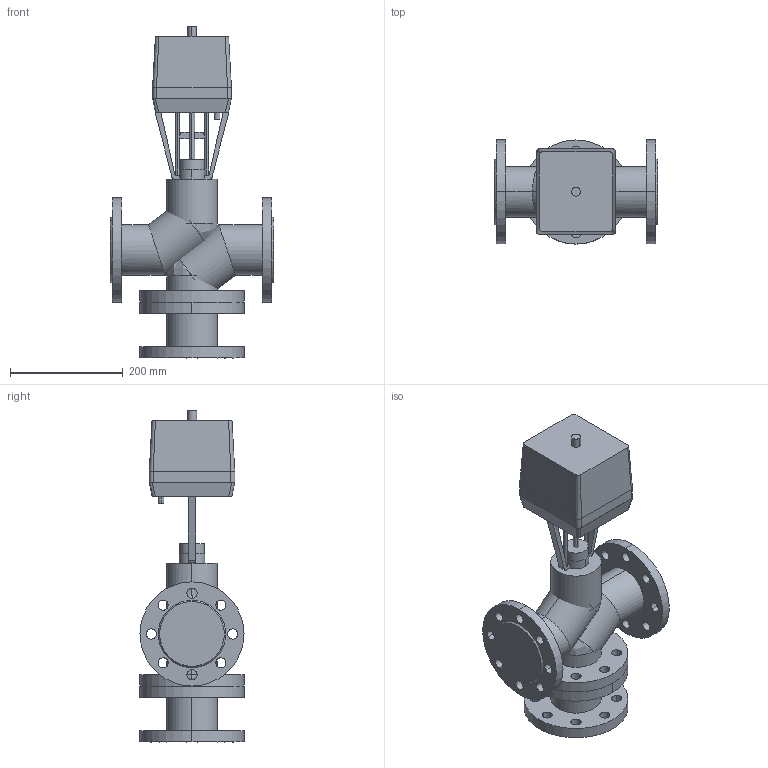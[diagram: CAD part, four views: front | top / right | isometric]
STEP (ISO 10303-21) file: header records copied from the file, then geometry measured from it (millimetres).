
FILE_DESCRIPTION(/* description */ (''),/* implementation_level */ '2;1');
FILE_NAME(/* name */ 'ТРК DN65 PN 2.5 МПа VTM-i 2000H',/* time_stamp */ '2026-07-14T23:24:12+03:00',/* author */ (''),/* organization */ (''),/* preprocessor_version */ 'ST-DEVELOPER v20',/* originating_system */ '',/* authorisation */ '');
FILE_SCHEMA (('AP242_MANAGED_MODEL_BASED_3D_ENGINEERING_MIM_LF { 1 0 10303 442 1 1 4 }'));
Length unit declared in the file: millimetre
Products named in the file (17): TopLevelAssembly; Выдавливание; Модификатор; Модификатор_1; Выдавливание_
1; Выдавливание_
2; Вращение; Выдавливание_
3; Выдавливание_
4; Выдавливание_
5; Выдавливание_
6; Выдавливание_
7; 1600; Переход; Объемная геометрия 
присоединена; Полый Выдавливание; Объемная геометрия 
присоединена_1
Assembly tree (16 placements, depth 2):
  TopLevelAssembly
    Выдавливание
    Модификатор
    Модификатор_1
    Выдавливание_
1
    Выдавливание_
2
    Вращение
    Выдавливание_
3
    Выдавливание_
4
    Выдавливание_
5
    Выдавливание_
6
    Выдавливание_
7
    1600
    Переход
    Объемная геометрия 
присоединена
    Полый Выдавливание
    Объемная геометрия 
присоединена_1
Bounding box: 290 x 185 x 590 mm (x, y, z)
Volume: 9063633.1 mm3; surface area: 902210.9 mm2
Topology: 24 solids, 24 shells, 238 faces, 570 edges, 376 vertices
Faces by surface type: cylinder 138, plane 84, bspline 12, cone 4
Entity records: 7980 total; most frequent: CARTESIAN_POINT 1489, DIRECTION 1392, ORIENTED_EDGE 1124, AXIS2_PLACEMENT_3D 571, EDGE_CURVE 562, VERTEX_POINT 376, EDGE_LOOP 332, CIRCLE 304
